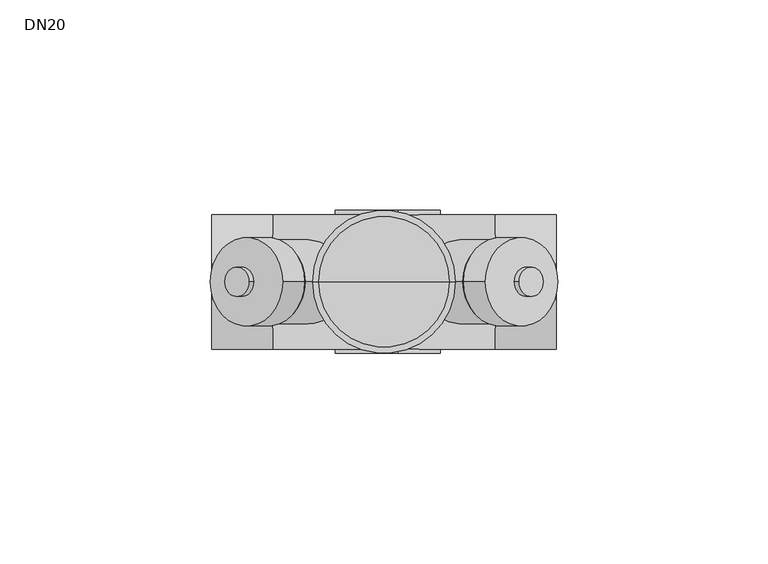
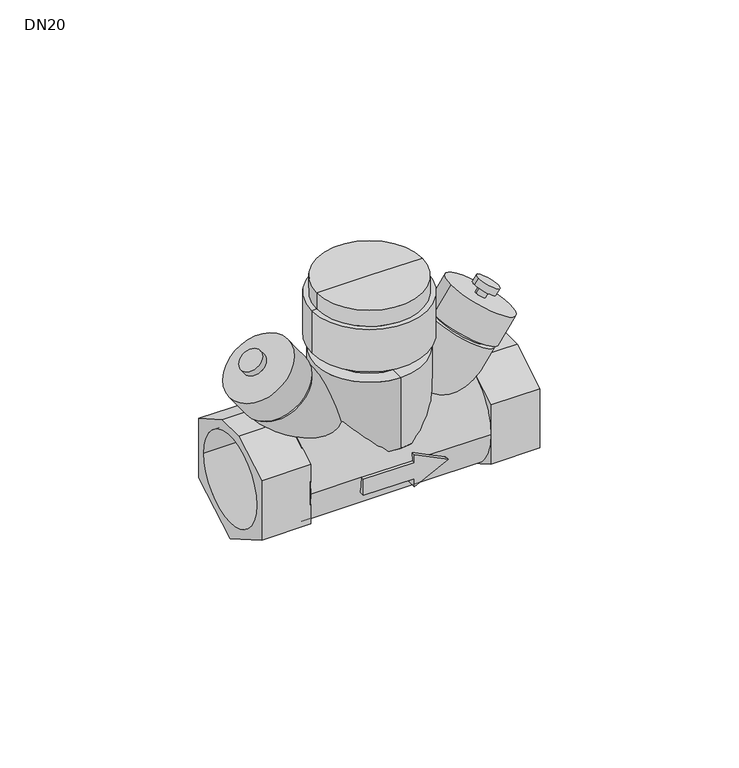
"""IFC4 building model written with IfcOpenShell, lengths in millimetres: valve geometry, 400_56_KOMF_HTZ : DN20."""

from ifc_helpers import new_model, si_unit, point, frame, origin, origin_2d, place, context, project, spatial, polyline, circle_curve, ellipse_curve, trimmed, segment, composite_curve, outline, extrude, source, transform, mapped, element, save
from ifc_brep_helpers import plane_surface, cylinder_surface, revolved_surface, advanced_brep


def dn20_8abca789(model_context):
    return source(origin(), model_context, "Body", "SolidModel", [
        advanced_brep(
        [(35.1614142, 0.0, 17.7961177), (18.7784319, 0.0, 29.2676054), (20.4167774, 0.0, 28.1204236), (33.5230687, 0.0, 18.9432996), (23.8246716, 0.0, 1.6055715), (7.4416893, 0.0, 13.0770591), (34.0966531, 0.0, 19.7624631), (20.9903618, 0.0, 28.9395871), (41.3067448, 0.0, 25.7008828), (24.1046544, 0.0, 37.7459162), (31.4768006, 0.0, 32.5838838), (33.9345986, 0.0, 30.8629152), (36.1445527, 0.0, 18.3285084), (18.9424623, 0.0, 30.3735418), (35.0817629, 0.0, 32.5012356), (32.623965, 0.0, 34.2222043), (37.867019, 0.0, 32.9924917), (32.132981, 0.0, 37.0075083), (36.719883, 0.0, 31.3542116), (30.985845, 0.0, 35.3692283)],
        [
            (0, 1, circle_curve(frame((26.969923, 0.0, 23.5318616), z_axis=(0.5735764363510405, 0.0, 0.8191520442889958), x_axis=(-0.8191520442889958, 0.0, 0.5735764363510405)), 9.9999642)),
            (1, 0, circle_curve(frame((26.969923, 0.0, 23.5318616), z_axis=(0.5735764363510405, 0.0, 0.8191520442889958), x_axis=(-0.8191520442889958, 0.0, 0.5735764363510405)), 9.9999642)),
            (2, 3, circle_curve(frame((26.969923, 0.0, 23.5318616), z_axis=(-0.5735764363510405, 0.0, -0.8191520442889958), x_axis=(-0.8191520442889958, 0.0, 0.5735764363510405)), 7.9999137)),
            (3, 2, circle_curve(frame((26.969923, 0.0, 23.5318616), z_axis=(-0.5735764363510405, 0.0, -0.8191520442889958), x_axis=(-0.8191520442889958, 0.0, 0.5735764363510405)), 7.9999137)),
            (4, 5, circle_curve(frame((15.6331805, 0.0, 7.3413153), z_axis=(-0.5735764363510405, 0.0, -0.8191520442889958), x_axis=(-0.8191520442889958, 0.0, 0.5735764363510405)), 9.9999642)),
            (5, 4, circle_curve(frame((15.6331805, 0.0, 7.3413153), z_axis=(-0.5735764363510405, 0.0, -0.8191520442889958), x_axis=(-0.8191520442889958, 0.0, 0.5735764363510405)), 9.9999642)),
            (1, 5),
            (4, 0),
            (6, 7, circle_curve(frame((27.5435075, 0.0, 24.3510251), z_axis=(-0.5735764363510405, 0.0, -0.8191520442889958), x_axis=(-0.8191520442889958, 0.0, 0.5735764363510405)), 7.9999137)),
            (7, 2),
            (3, 6),
            (7, 6, circle_curve(frame((27.5435075, 0.0, 24.3510251), z_axis=(-0.5735764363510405, 0.0, -0.8191520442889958), x_axis=(-0.8191520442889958, 0.0, 0.5735764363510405)), 7.9999137)),
            (8, 9, circle_curve(frame((32.7056996, 0.0, 31.7233995), z_axis=(0.5735764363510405, 0.0, 0.8191520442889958), x_axis=(-0.8191520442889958, 0.0, 0.5735764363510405)), 10.4999374)),
            (9, 8, circle_curve(frame((32.7056996, 0.0, 31.7233995), z_axis=(0.5735764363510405, 0.0, 0.8191520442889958), x_axis=(-0.8191520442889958, 0.0, 0.5735764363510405)), 10.4999374)),
            (10, 11, circle_curve(frame((32.7056996, 0.0, 31.7233995), z_axis=(-0.5735764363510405, 0.0, -0.8191520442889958), x_axis=(-0.8191520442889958, 0.0, 0.5735764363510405)), 1.5002086)),
            (11, 10, circle_curve(frame((32.7056996, 0.0, 31.7233995), z_axis=(-0.5735764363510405, 0.0, -0.8191520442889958), x_axis=(-0.8191520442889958, 0.0, 0.5735764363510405)), 1.5002086)),
            (12, 13, circle_curve(frame((27.5435075, 0.0, 24.3510251), z_axis=(-0.5735764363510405, 0.0, -0.8191520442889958), x_axis=(-0.8191520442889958, 0.0, 0.5735764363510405)), 10.4999374)),
            (13, 12, circle_curve(frame((27.5435075, 0.0, 24.3510251), z_axis=(-0.5735764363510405, 0.0, -0.8191520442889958), x_axis=(-0.8191520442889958, 0.0, 0.5735764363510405)), 10.4999374)),
            (9, 13),
            (12, 8),
            (14, 15, circle_curve(frame((33.852864, 0.0, 33.3617199), z_axis=(-0.5735764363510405, 0.0, -0.8191520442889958), x_axis=(-0.8191520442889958, 0.0, 0.5735764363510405)), 1.5002086)),
            (15, 10),
            (11, 14),
            (15, 14, circle_curve(frame((33.852864, 0.0, 33.3617199), z_axis=(-0.5735764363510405, 0.0, -0.8191520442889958), x_axis=(-0.8191520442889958, 0.0, 0.5735764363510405)), 1.5002086)),
            (16, 17, circle_curve(frame((35.0, 0.0, 35.0), z_axis=(0.5735764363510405, 0.0, 0.8191520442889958), x_axis=(-0.8191520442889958, 0.0, 0.5735764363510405)), 3.4999839)),
            (17, 16, circle_curve(frame((35.0, 0.0, 35.0), z_axis=(0.5735764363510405, 0.0, 0.8191520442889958), x_axis=(-0.8191520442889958, 0.0, 0.5735764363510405)), 3.4999839)),
            (18, 19, circle_curve(frame((33.852864, 0.0, 33.3617199), z_axis=(-0.5735764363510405, 0.0, -0.8191520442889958), x_axis=(-0.8191520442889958, 0.0, 0.5735764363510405)), 3.4999839)),
            (19, 18, circle_curve(frame((33.852864, 0.0, 33.3617199), z_axis=(-0.5735764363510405, 0.0, -0.8191520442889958), x_axis=(-0.8191520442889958, 0.0, 0.5735764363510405)), 3.4999839)),
            (17, 19),
            (18, 16),
        ],
        [
            plane_surface(frame((18.7784319, 0.0, 29.2676054), z_axis=(0.5735764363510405, 0.0, 0.8191520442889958), x_axis=(0.0, 1.0, 0.0))),
            plane_surface(frame((7.4416893, 0.0, 13.0770591), z_axis=(-0.5735764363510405, 0.0, -0.8191520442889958), x_axis=(0.0, -1.0, 0.0))),
            cylinder_surface(frame((15.6331805, 0.0, 7.3413153), z_axis=(0.5735764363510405, 0.0, 0.8191520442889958), x_axis=(-0.8191520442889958, 0.0, 0.5735764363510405)), 9.9999642),
            cylinder_surface(frame((18.939734, 0.0, 12.0635631), z_axis=(0.5735764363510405, 0.0, 0.8191520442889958), x_axis=(-0.8191520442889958, 0.0, 0.5735764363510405)), 7.9999137),
            plane_surface(frame((24.1046544, 0.0, 37.7459162), z_axis=(0.5735764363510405, 0.0, 0.8191520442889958), x_axis=(0.0, 1.0, 0.0))),
            plane_surface(frame((18.9424623, 0.0, 30.3735418), z_axis=(-0.5735764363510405, 0.0, -0.8191520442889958), x_axis=(0.0, -1.0, 0.0))),
            cylinder_surface(frame((27.5435075, 0.0, 24.3510251), z_axis=(0.5735764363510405, 0.0, 0.8191520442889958), x_axis=(-0.8191520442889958, 0.0, 0.5735764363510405)), 10.4999374),
            cylinder_surface(frame((32.7056996, 0.0, 31.7233995), z_axis=(0.5735764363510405, 0.0, 0.8191520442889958), x_axis=(-0.8191520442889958, 0.0, 0.5735764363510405)), 1.5002086),
            plane_surface(frame((32.132981, 0.0, 37.0075083), z_axis=(0.5735764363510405, 0.0, 0.8191520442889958), x_axis=(0.0, 1.0, 0.0))),
            plane_surface(frame((30.985845, 0.0, 35.3692283), z_axis=(-0.5735764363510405, 0.0, -0.8191520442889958), x_axis=(0.0, -1.0, 0.0))),
            cylinder_surface(frame((33.852864, 0.0, 33.3617199), z_axis=(0.5735764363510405, 0.0, 0.8191520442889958), x_axis=(-0.8191520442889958, 0.0, 0.5735764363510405)), 3.4999839),
        ],
        [
            (0, [[1, 2], [3, 4]]),
            (1, [[5, 6]]),
            (2, [[7, -5, 8, -2]]),
            (2, [[-8, -6, -7, -1]]),
            (3, [[9, 10, -4, 11]]),
            (3, [[-3, -10, 12, -11]]),
            (4, [[13, 14], [15, 16]]),
            (5, [[17, 18], [-12, -9]]),
            (6, [[19, -17, 20, -14]]),
            (6, [[-20, -18, -19, -13]]),
            (7, [[21, 22, -16, 23]]),
            (7, [[-15, -22, 24, -23]]),
            (8, [[25, 26]]),
            (9, [[27, 28], [-24, -21]]),
            (10, [[29, -27, 30, -26]]),
            (10, [[-30, -28, -29, -25]]),
        ],
    ),
        advanced_brep(
        [(-35.1614142, 0.0, 17.7961177), (-18.7784319, 0.0, 29.2676054), (-20.4167774, 0.0, 28.1204236), (-33.5230687, 0.0, 18.9432996), (-23.8246716, 0.0, 1.6055715), (-7.4416893, 0.0, 13.0770591), (-34.0966531, 0.0, 19.7624631), (-20.9903618, 0.0, 28.9395871), (-41.3067448, 0.0, 25.7008828), (-24.1046544, 0.0, 37.7459162), (-31.4768006, 0.0, 32.5838838), (-33.9345986, 0.0, 30.8629152), (-36.1445527, 0.0, 18.3285084), (-18.9424623, 0.0, 30.3735418), (-35.0817629, 0.0, 32.5012356), (-32.623965, 0.0, 34.2222043), (-37.867019, 0.0, 32.9924917), (-32.132981, 0.0, 37.0075083), (-36.719883, 0.0, 31.3542116), (-30.985845, 0.0, 35.3692283)],
        [
            (0, 1, circle_curve(frame((-26.969923, 0.0, 23.5318616), z_axis=(-0.5735764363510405, 0.0, 0.8191520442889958), x_axis=(0.8191520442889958, 0.0, 0.5735764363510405)), 9.9999642)),
            (1, 0, circle_curve(frame((-26.969923, 0.0, 23.5318616), z_axis=(-0.5735764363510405, 0.0, 0.8191520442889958), x_axis=(0.8191520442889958, 0.0, 0.5735764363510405)), 9.9999642)),
            (2, 3, circle_curve(frame((-26.969923, 0.0, 23.5318616), z_axis=(0.5735764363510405, 0.0, -0.8191520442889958), x_axis=(0.8191520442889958, 0.0, 0.5735764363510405)), 7.9999137)),
            (3, 2, circle_curve(frame((-26.969923, 0.0, 23.5318616), z_axis=(0.5735764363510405, 0.0, -0.8191520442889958), x_axis=(0.8191520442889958, 0.0, 0.5735764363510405)), 7.9999137)),
            (4, 5, circle_curve(frame((-15.6331805, 0.0, 7.3413153), z_axis=(0.5735764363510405, 0.0, -0.8191520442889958), x_axis=(0.8191520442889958, 0.0, 0.5735764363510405)), 9.9999642)),
            (5, 4, circle_curve(frame((-15.6331805, 0.0, 7.3413153), z_axis=(0.5735764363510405, 0.0, -0.8191520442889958), x_axis=(0.8191520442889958, 0.0, 0.5735764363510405)), 9.9999642)),
            (0, 4),
            (5, 1),
            (6, 3),
            (2, 7),
            (7, 6, circle_curve(frame((-27.5435075, 0.0, 24.3510251), z_axis=(0.5735764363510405, 0.0, -0.8191520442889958), x_axis=(0.8191520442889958, 0.0, 0.5735764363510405)), 7.9999137)),
            (6, 7, circle_curve(frame((-27.5435075, 0.0, 24.3510251), z_axis=(0.5735764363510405, 0.0, -0.8191520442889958), x_axis=(0.8191520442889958, 0.0, 0.5735764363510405)), 7.9999137)),
            (8, 9, circle_curve(frame((-32.7056996, 0.0, 31.7233995), z_axis=(-0.5735764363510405, 0.0, 0.8191520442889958), x_axis=(0.8191520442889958, 0.0, 0.5735764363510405)), 10.4999374)),
            (9, 8, circle_curve(frame((-32.7056996, 0.0, 31.7233995), z_axis=(-0.5735764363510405, 0.0, 0.8191520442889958), x_axis=(0.8191520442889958, 0.0, 0.5735764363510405)), 10.4999374)),
            (10, 11, circle_curve(frame((-32.7056996, 0.0, 31.7233995), z_axis=(0.5735764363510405, 0.0, -0.8191520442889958), x_axis=(0.8191520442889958, 0.0, 0.5735764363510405)), 1.5002086)),
            (11, 10, circle_curve(frame((-32.7056996, 0.0, 31.7233995), z_axis=(0.5735764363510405, 0.0, -0.8191520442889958), x_axis=(0.8191520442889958, 0.0, 0.5735764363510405)), 1.5002086)),
            (12, 13, circle_curve(frame((-27.5435075, 0.0, 24.3510251), z_axis=(0.5735764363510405, 0.0, -0.8191520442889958), x_axis=(0.8191520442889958, 0.0, 0.5735764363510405)), 10.4999374)),
            (13, 12, circle_curve(frame((-27.5435075, 0.0, 24.3510251), z_axis=(0.5735764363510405, 0.0, -0.8191520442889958), x_axis=(0.8191520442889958, 0.0, 0.5735764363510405)), 10.4999374)),
            (8, 12),
            (13, 9),
            (14, 11),
            (10, 15),
            (15, 14, circle_curve(frame((-33.852864, 0.0, 33.3617199), z_axis=(0.5735764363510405, 0.0, -0.8191520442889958), x_axis=(0.8191520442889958, 0.0, 0.5735764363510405)), 1.5002086)),
            (14, 15, circle_curve(frame((-33.852864, 0.0, 33.3617199), z_axis=(0.5735764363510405, 0.0, -0.8191520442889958), x_axis=(0.8191520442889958, 0.0, 0.5735764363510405)), 1.5002086)),
            (16, 17, circle_curve(frame((-35.0, 0.0, 35.0), z_axis=(-0.5735764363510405, 0.0, 0.8191520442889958), x_axis=(0.8191520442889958, 0.0, 0.5735764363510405)), 3.4999839)),
            (17, 16, circle_curve(frame((-35.0, 0.0, 35.0), z_axis=(-0.5735764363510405, 0.0, 0.8191520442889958), x_axis=(0.8191520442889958, 0.0, 0.5735764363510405)), 3.4999839)),
            (18, 19, circle_curve(frame((-33.852864, 0.0, 33.3617199), z_axis=(0.5735764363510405, 0.0, -0.8191520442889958), x_axis=(0.8191520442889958, 0.0, 0.5735764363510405)), 3.4999839)),
            (19, 18, circle_curve(frame((-33.852864, 0.0, 33.3617199), z_axis=(0.5735764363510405, 0.0, -0.8191520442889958), x_axis=(0.8191520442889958, 0.0, 0.5735764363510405)), 3.4999839)),
            (16, 18),
            (19, 17),
        ],
        [
            plane_surface(frame((-18.7784319, 0.0, 29.2676054), z_axis=(-0.5735764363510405, 0.0, 0.8191520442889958), x_axis=(0.0, 1.0, 0.0))),
            plane_surface(frame((-7.4416893, 0.0, 13.0770591), z_axis=(0.5735764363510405, 0.0, -0.8191520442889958), x_axis=(0.0, -1.0, 0.0))),
            cylinder_surface(frame((-15.6331805, 0.0, 7.3413153), z_axis=(-0.5735764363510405, 0.0, 0.8191520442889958), x_axis=(0.8191520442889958, 0.0, 0.5735764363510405)), 9.9999642),
            cylinder_surface(frame((-18.939734, 0.0, 12.0635631), z_axis=(-0.5735764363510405, 0.0, 0.8191520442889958), x_axis=(0.8191520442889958, 0.0, 0.5735764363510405)), 7.9999137),
            plane_surface(frame((-24.1046544, 0.0, 37.7459162), z_axis=(-0.5735764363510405, 0.0, 0.8191520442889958), x_axis=(0.0, 1.0, 0.0))),
            plane_surface(frame((-18.9424623, 0.0, 30.3735418), z_axis=(0.5735764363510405, 0.0, -0.8191520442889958), x_axis=(0.0, -1.0, 0.0))),
            cylinder_surface(frame((-27.5435075, 0.0, 24.3510251), z_axis=(-0.5735764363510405, 0.0, 0.8191520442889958), x_axis=(0.8191520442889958, 0.0, 0.5735764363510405)), 10.4999374),
            cylinder_surface(frame((-32.7056996, 0.0, 31.7233995), z_axis=(-0.5735764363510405, 0.0, 0.8191520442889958), x_axis=(0.8191520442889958, 0.0, 0.5735764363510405)), 1.5002086),
            plane_surface(frame((-32.132981, 0.0, 37.0075083), z_axis=(-0.5735764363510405, 0.0, 0.8191520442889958), x_axis=(0.0, 1.0, 0.0))),
            plane_surface(frame((-30.985845, 0.0, 35.3692283), z_axis=(0.5735764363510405, 0.0, -0.8191520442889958), x_axis=(0.0, -1.0, 0.0))),
            cylinder_surface(frame((-33.852864, 0.0, 33.3617199), z_axis=(-0.5735764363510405, 0.0, 0.8191520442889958), x_axis=(0.8191520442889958, 0.0, 0.5735764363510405)), 3.4999839),
        ],
        [
            (0, [[1, 2], [3, 4]]),
            (1, [[5, 6]]),
            (2, [[-1, 7, -6, 8]]),
            (2, [[-2, -8, -5, -7]]),
            (3, [[9, -3, 10, 11]]),
            (3, [[-9, 12, -10, -4]]),
            (4, [[13, 14], [15, 16]]),
            (5, [[17, 18], [-11, -12]]),
            (6, [[-13, 19, -18, 20]]),
            (6, [[-14, -20, -17, -19]]),
            (7, [[21, -15, 22, 23]]),
            (7, [[-21, 24, -22, -16]]),
            (8, [[25, 26]]),
            (9, [[27, 28], [-23, -24]]),
            (10, [[-25, 29, -28, 30]]),
            (10, [[-26, -30, -27, -29]]),
        ],
    ),
        advanced_brep(
        [(26.5, -15.9999998, -1e-07), (26.5, 16.0000002, -1e-07), (-26.5, -15.9999998, -1e-07), (-26.5, 16.0000002, -1e-07), (8.3504735, -15.9999998, -1e-07), (13.3504733, -15.8034804, -2.5), (3.3504733, -14.1332939, -7.5), (3.3504733, -15.198684, -5.0), (-11.6495267, -15.198684, -5.0), (-11.6495267, -15.9999998, -1e-07), (-11.6495267, 16.0000002, -1e-07), (-11.6495267, 15.1986844, -5.0), (3.3504733, 15.1986844, -5.0), (3.3504733, 14.1332943, -7.5), (13.3504733, 15.8034809, -2.5), (8.3504735, 16.0000002, -1e-07), (3.3504733, 15.8034808, 2.5), (3.3504733, 16.0000002, -1e-07), (3.3504733, -15.9999998, 0.0), (3.3504733, -15.8034804, 2.5), (3.3504733, -17.0, 0.0), (-11.6495267, -17.0, 0.0), (-11.6495267, -17.0, -5.0), (3.3504733, -17.0, -5.0), (3.3504733, -17.0, -7.5), (13.3504733, -17.0, -2.5), (3.3504733, -17.0, 2.5), (3.3504733, 17.0, 0.0), (3.3504733, 17.0, 2.5), (13.3504733, 17.0, -2.5), (3.3504733, 17.0, -7.5), (3.3504733, 17.0, -5.0), (-11.6495267, 17.0, -5.0), (-11.6495267, 17.0, 0.0)],
        [
            (0, 1, circle_curve(frame((26.5, 2e-07, -1e-07), z_axis=(1.0, 0.0, 0.0), x_axis=(0.0, 1.0, 0.0)), 16.0)),
            (1, 0, circle_curve(frame((26.5, 2e-07, -1e-07), z_axis=(1.0, 0.0, 0.0), x_axis=(0.0, 1.0, 0.0)), 16.0)),
            (2, 3, circle_curve(frame((-26.5, 2e-07, -1e-07), z_axis=(-1.0, 0.0, 0.0), x_axis=(0.0, 1.0, 0.0)), 16.0)),
            (3, 2, circle_curve(frame((-26.5, 2e-07, -1e-07), z_axis=(-1.0, 0.0, 0.0), x_axis=(0.0, 1.0, 0.0)), 16.0)),
            (0, 4),
            (4, 5, ellipse_curve(frame((8.3504735, 2e-07, -1e-07), z_axis=(0.44721359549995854, 0.0, 0.8944271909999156), x_axis=(0.8944271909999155, 0.0, -0.4472135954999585)), 35.7770876, 16.0)),
            (5, 6, ellipse_curve(frame((18.3504731, 2e-07, -1e-07), z_axis=(0.4472135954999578, 0.0, -0.894427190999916), x_axis=(0.894427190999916, 0.0, 0.44721359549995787)), 35.7770876, 16.0)),
            (6, 7, circle_curve(frame((3.3504733, 2e-07, -1e-07), z_axis=(-1.0, 0.0, 0.0), x_axis=(0.0, 1.0, 0.0)), 16.0)),
            (7, 8),
            (8, 9, circle_curve(frame((-11.6495267, 2e-07, -1e-07), z_axis=(-1.0, 0.0, 0.0), x_axis=(0.0, 1.0, 0.0)), 16.0)),
            (9, 2),
            (3, 10),
            (10, 11, circle_curve(frame((-11.6495267, 2e-07, -1e-07), z_axis=(-1.0, 0.0, 0.0), x_axis=(0.0, 1.0, 0.0)), 16.0)),
            (11, 12),
            (12, 13, circle_curve(frame((3.3504733, 2e-07, -1e-07), z_axis=(-1.0, 0.0, 0.0), x_axis=(0.0, 1.0, 0.0)), 16.0)),
            (13, 14, ellipse_curve(frame((18.3504731, 2e-07, -1e-07), z_axis=(0.4472135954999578, 0.0, -0.894427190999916), x_axis=(0.894427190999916, 0.0, 0.44721359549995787)), 35.7770876, 16.0)),
            (14, 15, ellipse_curve(frame((8.3504735, 2e-07, -1e-07), z_axis=(0.44721359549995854, 0.0, 0.8944271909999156), x_axis=(0.8944271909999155, 0.0, -0.4472135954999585)), 35.7770876, 16.0)),
            (15, 1),
            (15, 16, ellipse_curve(frame((8.3504735, 2e-07, -1e-07), z_axis=(0.44721359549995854, 0.0, 0.8944271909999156), x_axis=(0.8944271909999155, 0.0, -0.4472135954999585)), 35.7770876, 16.0)),
            (16, 17, circle_curve(frame((3.3504733, 2e-07, -1e-07), z_axis=(-1.0, 0.0, 0.0), x_axis=(0.0, 1.0, 0.0)), 16.0)),
            (17, 10),
            (9, 18),
            (18, 19, circle_curve(frame((3.3504733, 2e-07, -1e-07), z_axis=(-1.0, 0.0, 0.0), x_axis=(0.0, 1.0, 0.0)), 16.0)),
            (19, 4, ellipse_curve(frame((8.3504735, 2e-07, -1e-07), z_axis=(0.44721359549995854, 0.0, 0.8944271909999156), x_axis=(0.8944271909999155, 0.0, -0.4472135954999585)), 35.7770876, 16.0)),
            (20, 21),
            (21, 22),
            (22, 23),
            (23, 24),
            (24, 25),
            (25, 26),
            (26, 20),
            (27, 28),
            (28, 29),
            (29, 30),
            (30, 31),
            (31, 32),
            (32, 33),
            (33, 27),
            (20, 18),
            (9, 21),
            (33, 10),
            (17, 27),
            (8, 22),
            (32, 11),
            (7, 23),
            (31, 12),
            (6, 24),
            (30, 13),
            (5, 25),
            (29, 14),
            (19, 26),
            (28, 16),
        ],
        [
            plane_surface(frame((26.5, 16.0000002, -1e-07), z_axis=(1.0, 0.0, 0.0), x_axis=(0.0, 0.0, 1.0))),
            plane_surface(frame((-26.5, 16.0000002, -1e-07), z_axis=(-1.0, 0.0, 0.0), x_axis=(0.0, 0.0, -1.0))),
            cylinder_surface(frame((-26.5, 2e-07, -1e-07), z_axis=(1.0, 0.0, 0.0), x_axis=(0.0, 1.0, 0.0)), 16.0),
            plane_surface(frame((-11.6495267, -17.0, 0.0), z_axis=(0.0, -1.0, 0.0), x_axis=(-1.0, 0.0, 0.0))),
            plane_surface(frame((-11.6495267, 17.0, 0.0), z_axis=(0.0, 1.0, 0.0), x_axis=(1.0, 0.0, 0.0))),
            plane_surface(frame((3.3504733, -17.0, 0.0), z_axis=(0.0, 0.0, 1.0), x_axis=(0.0, 1.0, 0.0))),
            plane_surface(frame((-11.6495267, -17.0, 0.0), z_axis=(-1.0, 0.0, 0.0), x_axis=(0.0, 1.0, 0.0))),
            plane_surface(frame((-11.6495267, -17.0, -5.0), z_axis=(0.0, 0.0, -1.0), x_axis=(0.0, 1.0, 0.0))),
            plane_surface(frame((3.3504733, -17.0, -5.0), z_axis=(-1.0, 0.0, 0.0), x_axis=(0.0, 1.0, 0.0))),
            plane_surface(frame((3.3504733, -17.0, -7.5), z_axis=(0.4472135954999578, 0.0, -0.894427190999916), x_axis=(0.0, 1.0, 0.0))),
            plane_surface(frame((13.3504733, -17.0, -2.5), z_axis=(0.44721359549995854, 0.0, 0.8944271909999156), x_axis=(0.0, 1.0, 0.0))),
            plane_surface(frame((3.3504733, -17.0, 2.5), z_axis=(-1.0, 0.0, 0.0), x_axis=(0.0, 1.0, 0.0))),
        ],
        [
            (0, [[1, 2]]),
            (1, [[3, 4]]),
            (2, [[-1, 5, 6, 7, 8, 9, 10, 11, -4, 12, 13, 14, 15, 16, 17, 18]]),
            (2, [[-2, -18, 19, 20, 21, -12, -3, -11, 22, 23, 24, -5]]),
            (3, [[25, 26, 27, 28, 29, 30, 31]]),
            (4, [[32, 33, 34, 35, 36, 37, 38]]),
            (5, [[-25, 39, -22, 40]]),
            (5, [[-38, 41, -21, 42]]),
            (6, [[-26, -40, -10, 43]]),
            (6, [[-37, 44, -13, -41]]),
            (7, [[-27, -43, -9, 45]]),
            (7, [[-36, 46, -14, -44]]),
            (8, [[-28, -45, -8, 47]]),
            (8, [[-35, 48, -15, -46]]),
            (9, [[-29, -47, -7, 49]]),
            (9, [[-34, 50, -16, -48]]),
            (10, [[-30, -49, -6, -24, 51]]),
            (10, [[-33, 52, -19, -17, -50]]),
            (11, [[-31, -51, -23, -39]]),
            (11, [[-32, -42, -20, -52]]),
        ],
    ),
        extrude(outline(polyline([(16.0, 9.2376038), (16.0, -9.2376043), (-4e-07, -18.4752089), (-16.0, -9.2376048), (-16.0, 9.2376043), (-4.2871871, 16.0), (4.2871863, 16.0), (16.0, 9.2376038)]), holes=[composite_curve([segment(trimmed(circle_curve(origin_2d(), 13.45), [point((-13.45, 0.0))], [point((13.45, 0.0))], True, "CARTESIAN"), True, "CONTINUOUS"), segment(trimmed(circle_curve(origin_2d(), 13.45), [point((13.45, 0.0))], [point((-13.45, 0.0))], True, "CARTESIAN"), True, "CONTINUOUS")], self_intersect=False)]), frame((26.5, 0.0, 0.0), z_axis=(1.0, 0.0, 0.0), x_axis=(0.0, 1.0, 0.0)), (0.0, 0.0, 1.0), 14.5),
        extrude(outline(polyline([(16.0, 9.2376038), (16.0, -9.2376043), (-4e-07, -18.4752089), (-16.0, -9.2376048), (-16.0, 9.2376043), (-4.2871871, 16.0), (4.2871863, 16.0), (16.0, 9.2376038)]), holes=[composite_curve([segment(trimmed(circle_curve(origin_2d(), 13.45), [point((-13.45, 0.0))], [point((13.45, 0.0))], True, "CARTESIAN"), True, "CONTINUOUS"), segment(trimmed(circle_curve(origin_2d(), 13.45), [point((13.45, 0.0))], [point((-13.45, 0.0))], True, "CARTESIAN"), True, "CONTINUOUS")], self_intersect=False)]), frame((-41.0, 0.0, 0.0), z_axis=(1.0, 0.0, 0.0), x_axis=(0.0, 1.0, 0.0)), (0.0, 0.0, 1.0), 14.5),
        advanced_brep(
        [(0.0, -16.0, 27.0), (0.0, 16.0, 27.0), (0.0, 16.0, 5.0000003), (0.0, -16.0, 5.0000003), (0.0, -12.0000003, 27.0), (0.0, 12.0000003, 27.0), (0.0, -12.0000003, 35.0), (0.0, 12.0000003, 35.0), (0.0, 0.0, 35.0), (0.0, -13.0000003, 2.0), (0.0, 13.0000003, 2.0), (0.0, 0.0, 2.0)],
        [
            (0, 1, circle_curve(frame((0.0, 0.0, 27.0), z_axis=(0.0, 0.0, -1.0), x_axis=(0.0, 1.0, 0.0)), 16.0)),
            (1, 2),
            (2, 3, circle_curve(frame((0.0, 0.0, 5.0000003), z_axis=(0.0, 0.0, 1.0), x_axis=(0.0, 1.0, 0.0)), 16.0)),
            (3, 0),
            (1, 0, circle_curve(frame((0.0, 0.0, 27.0), z_axis=(0.0, 0.0, -1.0), x_axis=(0.0, 1.0, 0.0)), 16.0)),
            (3, 2, circle_curve(frame((0.0, 0.0, 5.0000003), z_axis=(0.0, 0.0, 1.0), x_axis=(0.0, 1.0, 0.0)), 16.0)),
            (4, 5, circle_curve(frame((0.0, 0.0, 27.0), z_axis=(0.0, 0.0, -1.0), x_axis=(0.0, 1.0, 0.0)), 12.0000003)),
            (5, 1),
            (0, 4),
            (5, 4, circle_curve(frame((0.0, 0.0, 27.0), z_axis=(0.0, 0.0, -1.0), x_axis=(0.0, 1.0, 0.0)), 12.0000003)),
            (6, 7, circle_curve(frame((0.0, 0.0, 35.0), z_axis=(0.0, 0.0, -1.0), x_axis=(0.0, 1.0, 0.0)), 12.0000003)),
            (7, 5),
            (4, 6),
            (7, 6, circle_curve(frame((0.0, 0.0, 35.0), z_axis=(0.0, 0.0, -1.0), x_axis=(0.0, 1.0, 0.0)), 12.0000003)),
            (8, 7),
            (6, 8),
            (9, 10, circle_curve(frame((0.0, 0.0, 2.0), z_axis=(0.0, 0.0, -1.0), x_axis=(0.0, 1.0, 0.0)), 13.0000003)),
            (10, 11),
            (11, 9),
            (10, 9, circle_curve(frame((0.0, 0.0, 2.0), z_axis=(0.0, 0.0, -1.0), x_axis=(0.0, 1.0, 0.0)), 13.0000003)),
            (2, 10),
            (9, 3),
        ],
        [
            cylinder_surface(frame((0.0, 0.0, 1440.3704342), z_axis=(0.0, 0.0, 1.0), x_axis=(0.0, 1.0, 0.0)), 16.0),
            plane_surface(frame((0.0, 0.0, 27.0), z_axis=(0.0, 0.0, 1.0), x_axis=(0.0, 1.0, 0.0))),
            cylinder_surface(frame((0.0, 0.0, 1440.3704342), z_axis=(0.0, 0.0, 1.0), x_axis=(0.0, 1.0, 0.0)), 12.0000003),
            plane_surface(frame((0.0, 0.0, 35.0), z_axis=(0.0, 0.0, 1.0), x_axis=(0.0, 1.0, 0.0))),
            plane_surface(frame((0.0, 0.0, 2.0), z_axis=(0.0, 0.0, -1.0), x_axis=(0.0, 1.0, 0.0))),
            revolved_surface(polyline([(0.0, 13.0000003, 2.0), (0.0, 16.0, 5.0000003)]), (0.0, 0.0, 1440.3704342), (0.0, 0.0, 1.0)),
        ],
        [
            (0, [[1, 2, 3, 4]]),
            (0, [[5, -4, 6, -2]]),
            (1, [[7, 8, -1, 9]]),
            (1, [[10, -9, -5, -8]]),
            (2, [[11, 12, -7, 13]]),
            (2, [[14, -13, -10, -12]]),
            (3, [[15, -11, 16]]),
            (3, [[-16, -14, -15]]),
            (4, [[17, 18, 19]]),
            (4, [[20, -19, -18]]),
            (5, [[-3, 21, -17, 22]]),
            (5, [[-6, -22, -20, -21]]),
        ],
    ),
        advanced_brep(
        [(15.5000005, 0.0, 49.1250011), (-15.5000005, 0.0, 49.1250011), (0.0, 0.0, 49.1250011), (15.5000005, 0.0, 44.1400994), (-15.5000005, 0.0, 44.1400994), (17.0, 0.0, 44.1400994), (-17.0, 0.0, 44.1400994), (17.0, 0.0, 31.0), (-17.0, 0.0, 31.0), (0.0, 0.0, 31.0)],
        [
            (0, 1, circle_curve(frame((0.0, 0.0, 49.1250011), z_axis=(0.0, 0.0, 1.0), x_axis=(-1.0, 0.0, 0.0)), 15.5000005)),
            (1, 2),
            (2, 0),
            (1, 0, circle_curve(frame((0.0, 0.0, 49.1250011), z_axis=(0.0, 0.0, 1.0), x_axis=(-1.0, 0.0, 0.0)), 15.5000005)),
            (3, 4, circle_curve(frame((0.0, 0.0, 44.1400994), z_axis=(0.0, 0.0, 1.0), x_axis=(-1.0, 0.0, 0.0)), 15.5000005)),
            (4, 1),
            (0, 3),
            (4, 3, circle_curve(frame((0.0, 0.0, 44.1400994), z_axis=(0.0, 0.0, 1.0), x_axis=(-1.0, 0.0, 0.0)), 15.5000005)),
            (5, 6, circle_curve(frame((0.0, 0.0, 44.1400994), z_axis=(0.0, 0.0, 1.0), x_axis=(-1.0, 0.0, 0.0)), 17.0)),
            (6, 4),
            (3, 5),
            (6, 5, circle_curve(frame((0.0, 0.0, 44.1400994), z_axis=(0.0, 0.0, 1.0), x_axis=(-1.0, 0.0, 0.0)), 17.0)),
            (7, 8, circle_curve(frame((0.0, 0.0, 31.0), z_axis=(0.0, 0.0, 1.0), x_axis=(-1.0, 0.0, 0.0)), 17.0)),
            (8, 6),
            (5, 7),
            (8, 7, circle_curve(frame((0.0, 0.0, 31.0), z_axis=(0.0, 0.0, 1.0), x_axis=(-1.0, 0.0, 0.0)), 17.0)),
            (9, 8),
            (7, 9),
        ],
        [
            plane_surface(frame((0.0, 0.0, 49.1250011), z_axis=(0.0, 0.0, 1.0), x_axis=(-1.0, 0.0, 0.0))),
            cylinder_surface(frame((0.0, 0.0, 29.125), z_axis=(0.0, 0.0, -1.0), x_axis=(-1.0, 0.0, 0.0)), 15.5000005),
            plane_surface(frame((0.0, 0.0, 44.1400994), z_axis=(0.0, 0.0, 1.0), x_axis=(-1.0, 0.0, 0.0))),
            cylinder_surface(frame((0.0, 0.0, 29.125), z_axis=(0.0, 0.0, -1.0), x_axis=(-1.0, 0.0, 0.0)), 17.0),
            plane_surface(frame((0.0, 0.0, 31.0), z_axis=(0.0, 0.0, -1.0), x_axis=(-1.0, 0.0, 0.0))),
        ],
        [
            (0, [[1, 2, 3]]),
            (0, [[4, -3, -2]]),
            (1, [[5, 6, -1, 7]]),
            (1, [[8, -7, -4, -6]]),
            (2, [[9, 10, -5, 11]]),
            (2, [[12, -11, -8, -10]]),
            (3, [[13, 14, -9, 15]]),
            (3, [[16, -15, -12, -14]]),
            (4, [[17, -13, 18]]),
            (4, [[-18, -16, -17]]),
        ],
    ),
    ])


if __name__ == "__main__":
    model = new_model("IFC4")
    model_context = context("Model", 3, world=origin())
    ifc_project = project(units=[si_unit("LENGTHUNIT", "METRE", prefix="MILLI")], contexts=[model_context])
    site = spatial("IfcSite", under=ifc_project)
    building = spatial("IfcBuilding", under=site)
    placement = place(None, origin())
    dn20_shape = dn20_8abca789(model_context)
    element("IfcValve", 1, ObjectType="400_56_KOMF_HTZ : DN20", at=placement, inside=building, context=model_context, shape_type="MappedRepresentation", body=[
        mapped(dn20_shape, transform((0.0, 0.0, 0.0), x_axis=(1.0, 0.0, 0.0), y_axis=(0.0, 1.0, 0.0), z_axis=(0.0, 0.0, 1.0))),
    ])
    save(model, "model.ifc")
